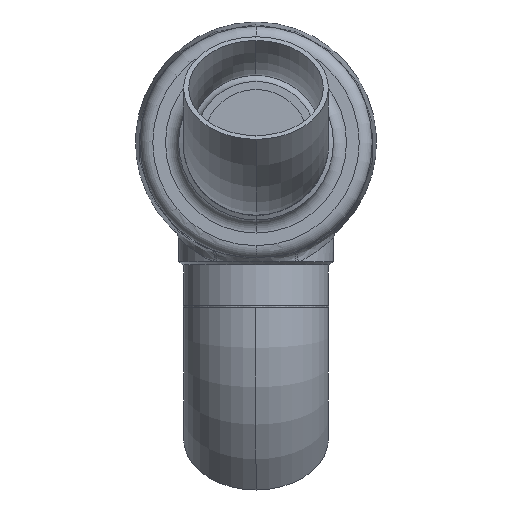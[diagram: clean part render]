
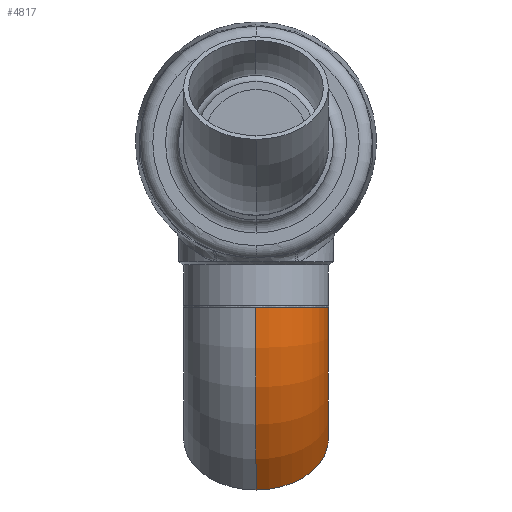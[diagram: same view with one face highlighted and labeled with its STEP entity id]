
A CAD part, front view. The second image highlights one B-rep face of the part: STEP entity #4817.
In plain terms, the highlighted toroidal (fillet/blend) face has major radius 114 mm and minor radius 44.45 mm.
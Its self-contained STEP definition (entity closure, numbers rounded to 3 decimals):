
#293 = CIRCLE ( 'NONE', #294, 44.45 ) ;
#294 = AXIS2_PLACEMENT_3D ( 'NONE', #295, #296, #297 ) ;
#295 = CARTESIAN_POINT ( 'NONE',  ( 80.61, -33.39, 0. ) ) ;
#296 = DIRECTION ( 'NONE',  ( 0.707, -0.707, 0. ) ) ;
#297 = DIRECTION ( 'NONE',  ( 0., 0., -1. ) ) ;
#17887 = CARTESIAN_POINT ( 'NONE',  ( 49.179, -64.821, 0. ) ) ;
#18344 = CARTESIAN_POINT ( 'NONE',  ( 112.041, -1.959, 0. ) ) ;
#2054 = EDGE_CURVE ( 'NONE', #14352, #15419, #14428, .T. ) ;
#2218 = ORIENTED_EDGE ( 'NONE', *, *, #2054, .T. ) ;
#2720 = ORIENTED_EDGE ( 'NONE', *, *, #13491, .T. ) ;
#2733 = CIRCLE ( 'NONE', #2734, 69.55 ) ;
#2734 = AXIS2_PLACEMENT_3D ( 'NONE', #2735, #2736, #2738 ) ;
#2735 = CARTESIAN_POINT ( 'NONE',  ( 0., -114., 0. ) ) ;
#2736 = DIRECTION ( 'NONE',  ( 0., 0., 1. ) ) ;
#2738 = DIRECTION ( 'NONE',  ( 1., 0., 0. ) ) ;
#3220 = EDGE_CURVE ( 'NONE', #7331, #7547, #293, .T. ) ;
#3583 = ORIENTED_EDGE ( 'NONE', *, *, #3220, .F. ) ;
#3853 = FACE_OUTER_BOUND ( 'NONE', #4581, .T. ) ;
#3854 = TOROIDAL_SURFACE ( 'NONE', #3855, 114., 44.45 ) ;
#3855 = AXIS2_PLACEMENT_3D ( 'NONE', #3856, #3857, #3858 ) ;
#3856 = CARTESIAN_POINT ( 'NONE',  ( 0., -114., 0. ) ) ;
#3857 = DIRECTION ( 'NONE',  ( 0., 0., 1. ) ) ;
#3858 = DIRECTION ( 'NONE',  ( 1., 0., 0. ) ) ;
#4082 = ORIENTED_EDGE ( 'NONE', *, *, #15638, .F. ) ;
#4110 = CARTESIAN_POINT ( 'NONE',  ( 0., -44.45, 0. ) ) ;
#4581 = EDGE_LOOP ( 'NONE', ( #4082, #3583, #2720, #2218 ) ) ;
#4817 = ADVANCED_FACE ( 'NONE', ( #3853 ), #3854, .T. ) ;
#7265 = CARTESIAN_POINT ( 'NONE',  ( 0., 44.45, 0. ) ) ;
#7331 = VERTEX_POINT ( 'NONE', #17887 ) ;
#7446 = CIRCLE ( 'NONE', #7447, 158.45 ) ;
#7447 = AXIS2_PLACEMENT_3D ( 'NONE', #7448, #7449, #7450 ) ;
#7448 = CARTESIAN_POINT ( 'NONE',  ( 0., -114., 0. ) ) ;
#7449 = DIRECTION ( 'NONE',  ( 0., 0., 1. ) ) ;
#7450 = DIRECTION ( 'NONE',  ( 1., 0., 0. ) ) ;
#7547 = VERTEX_POINT ( 'NONE', #18344 ) ;
#13491 = EDGE_CURVE ( 'NONE', #7331, #14352, #2733, .T. ) ;
#14352 = VERTEX_POINT ( 'NONE', #4110 ) ;
#14428 = CIRCLE ( 'NONE', #14429, 44.45 ) ;
#14429 = AXIS2_PLACEMENT_3D ( 'NONE', #14430, #14431, #14432 ) ;
#14430 = CARTESIAN_POINT ( 'NONE',  ( 0., 0., 0. ) ) ;
#14431 = DIRECTION ( 'NONE',  ( 1., 0., 0. ) ) ;
#14432 = DIRECTION ( 'NONE',  ( 0., 0., -1. ) ) ;
#15419 = VERTEX_POINT ( 'NONE', #7265 ) ;
#15638 = EDGE_CURVE ( 'NONE', #7547, #15419, #7446, .T. ) ;
